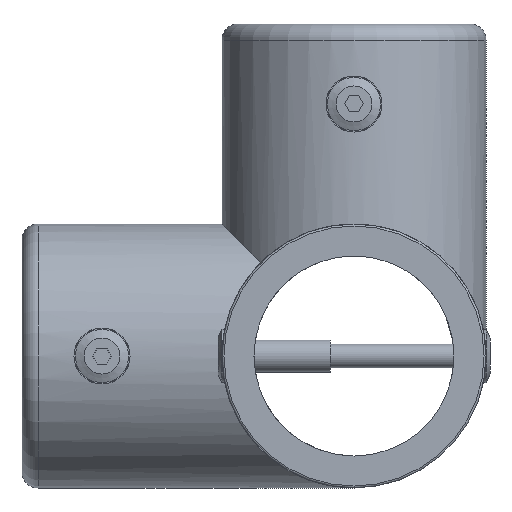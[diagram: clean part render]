
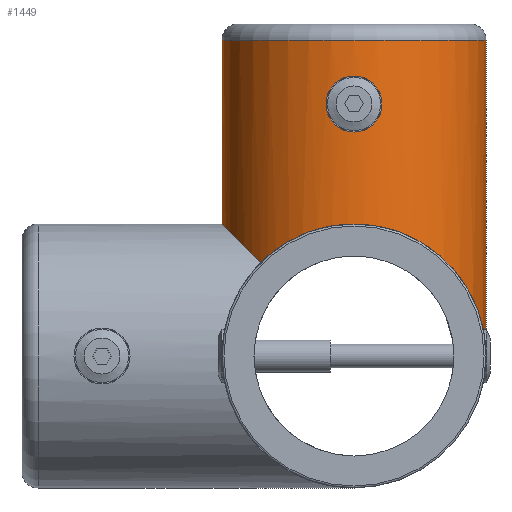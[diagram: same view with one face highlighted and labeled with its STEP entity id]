
A CAD part, left-side view. The second image highlights one B-rep face of the part: STEP entity #1449.
In plain terms, the highlighted cylindrical face has radius 33 mm (diameter 66 mm), a partial arc.
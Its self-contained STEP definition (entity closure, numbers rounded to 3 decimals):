
#110=FACE_BOUND('',#515,.T.);
#125=ELLIPSE('',#1676,46.669,33.);
#127=ELLIPSE('',#1695,46.669,33.);
#156=B_SPLINE_CURVE_WITH_KNOTS('',3,(#2817,#2818,#2819,#2820,#2821,#2822,
#2823,#2824,#2825,#2826,#2827,#2828,#2829,#2830,#2831,#2832,#2833,#2834),
 .UNSPECIFIED.,.F.,.F.,(4,2,2,2,2,2,2,2,4),(1.058,1.323,
1.587,1.852,2.116,2.381,2.645,
2.91,3.175),.UNSPECIFIED.);
#157=B_SPLINE_CURVE_WITH_KNOTS('',3,(#2835,#2836,#2837,#2838,#2839,#2840,
#2841,#2842,#2843,#2844,#2845,#2846,#2847,#2848,#2849,#2850,#2851,#2852,
#2853),.UNSPECIFIED.,.F.,.F.,(4,2,2,2,3,2,2,2,4),(3.175,3.439,
3.704,3.968,4.233,4.497,4.762,
5.026,5.291),.UNSPECIFIED.);
#197=LINE('',#2977,#286);
#203=LINE('',#3000,#292);
#286=VECTOR('',#1989,10.);
#292=VECTOR('',#2013,10.);
#363=CYLINDRICAL_SURFACE('',#1696,33.);
#416=FACE_OUTER_BOUND('',#514,.T.);
#514=EDGE_LOOP('',(#1185,#1186,#1187,#1188,#1189));
#515=EDGE_LOOP('',(#1190,#1191));
#599=CIRCLE('',#1684,33.);
#684=VERTEX_POINT('',#2815);
#685=VERTEX_POINT('',#2816);
#696=VERTEX_POINT('',#2951);
#697=VERTEX_POINT('',#2955);
#699=VERTEX_POINT('',#2962);
#702=VERTEX_POINT('',#2967);
#712=VERTEX_POINT('',#2996);
#843=EDGE_CURVE('',#684,#685,#156,.T.);
#844=EDGE_CURVE('',#685,#684,#157,.T.);
#861=EDGE_CURVE('',#696,#697,#125,.T.);
#867=EDGE_CURVE('',#702,#699,#599,.T.);
#871=EDGE_CURVE('',#696,#699,#197,.T.);
#881=EDGE_CURVE('',#712,#697,#127,.T.);
#883=EDGE_CURVE('',#702,#712,#203,.T.);
#1185=ORIENTED_EDGE('',*,*,#867,.F.);
#1186=ORIENTED_EDGE('',*,*,#883,.T.);
#1187=ORIENTED_EDGE('',*,*,#881,.T.);
#1188=ORIENTED_EDGE('',*,*,#861,.F.);
#1189=ORIENTED_EDGE('',*,*,#871,.T.);
#1190=ORIENTED_EDGE('',*,*,#843,.T.);
#1191=ORIENTED_EDGE('',*,*,#844,.T.);
#1449=ADVANCED_FACE('',(#416,#110),#363,.T.);
#1676=AXIS2_PLACEMENT_3D('',#2956,#1963,#1964);
#1684=AXIS2_PLACEMENT_3D('',#2969,#1979,#1980);
#1695=AXIS2_PLACEMENT_3D('',#2997,#2008,#2009);
#1696=AXIS2_PLACEMENT_3D('',#2999,#2011,#2012);
#1963=DIRECTION('center_axis',(-0.707,0.,-0.707));
#1964=DIRECTION('ref_axis',(0.707,0.,-0.707));
#1979=DIRECTION('center_axis',(0.,0.,1.));
#1980=DIRECTION('ref_axis',(-1.,0.,0.));
#1989=DIRECTION('',(0.,0.,1.));
#2008=DIRECTION('center_axis',(0.,-0.707,0.707));
#2009=DIRECTION('ref_axis',(0.,0.707,0.707));
#2011=DIRECTION('center_axis',(0.,0.,1.));
#2012=DIRECTION('ref_axis',(-1.,0.,0.));
#2013=DIRECTION('',(0.,0.,-1.));
#2815=CARTESIAN_POINT('',(-33.,0.,70.));
#2816=CARTESIAN_POINT('',(-33.,0.,56.));
#2817=CARTESIAN_POINT('Ctrl Pts',(-33.,0.,70.));
#2818=CARTESIAN_POINT('Ctrl Pts',(-33.,-0.882,70.));
#2819=CARTESIAN_POINT('Ctrl Pts',(-32.961,-1.821,69.823));
#2820=CARTESIAN_POINT('Ctrl Pts',(-32.82,-3.544,69.108));
#2821=CARTESIAN_POINT('Ctrl Pts',(-32.721,-4.33,68.57));
#2822=CARTESIAN_POINT('Ctrl Pts',(-32.533,-5.57,67.33));
#2823=CARTESIAN_POINT('Ctrl Pts',(-32.432,-6.108,66.544));
#2824=CARTESIAN_POINT('Ctrl Pts',(-32.289,-6.823,64.821));
#2825=CARTESIAN_POINT('Ctrl Pts',(-32.249,-7.,63.882));
#2826=CARTESIAN_POINT('Ctrl Pts',(-32.249,-7.,62.118));
#2827=CARTESIAN_POINT('Ctrl Pts',(-32.289,-6.823,61.179));
#2828=CARTESIAN_POINT('Ctrl Pts',(-32.432,-6.108,59.456));
#2829=CARTESIAN_POINT('Ctrl Pts',(-32.533,-5.57,58.67));
#2830=CARTESIAN_POINT('Ctrl Pts',(-32.721,-4.33,57.43));
#2831=CARTESIAN_POINT('Ctrl Pts',(-32.82,-3.544,56.892));
#2832=CARTESIAN_POINT('Ctrl Pts',(-32.961,-1.821,56.177));
#2833=CARTESIAN_POINT('Ctrl Pts',(-33.,-0.882,56.));
#2834=CARTESIAN_POINT('Ctrl Pts',(-33.,0.,56.));
#2835=CARTESIAN_POINT('Ctrl Pts',(-33.,0.,56.));
#2836=CARTESIAN_POINT('Ctrl Pts',(-33.,0.882,56.));
#2837=CARTESIAN_POINT('Ctrl Pts',(-32.961,1.821,56.177));
#2838=CARTESIAN_POINT('Ctrl Pts',(-32.82,3.544,56.892));
#2839=CARTESIAN_POINT('Ctrl Pts',(-32.721,4.33,57.43));
#2840=CARTESIAN_POINT('Ctrl Pts',(-32.533,5.57,58.67));
#2841=CARTESIAN_POINT('Ctrl Pts',(-32.432,6.108,59.456));
#2842=CARTESIAN_POINT('Ctrl Pts',(-32.289,6.823,61.179));
#2843=CARTESIAN_POINT('Ctrl Pts',(-32.249,7.,62.118));
#2844=CARTESIAN_POINT('Ctrl Pts',(-32.249,7.,63.));
#2845=CARTESIAN_POINT('Ctrl Pts',(-32.249,7.,63.882));
#2846=CARTESIAN_POINT('Ctrl Pts',(-32.289,6.823,64.821));
#2847=CARTESIAN_POINT('Ctrl Pts',(-32.432,6.108,66.544));
#2848=CARTESIAN_POINT('Ctrl Pts',(-32.533,5.57,67.33));
#2849=CARTESIAN_POINT('Ctrl Pts',(-32.721,4.33,68.57));
#2850=CARTESIAN_POINT('Ctrl Pts',(-32.82,3.544,69.108));
#2851=CARTESIAN_POINT('Ctrl Pts',(-32.961,1.821,69.823));
#2852=CARTESIAN_POINT('Ctrl Pts',(-33.,0.882,70.));
#2853=CARTESIAN_POINT('Ctrl Pts',(-33.,0.,70.));
#2951=CARTESIAN_POINT('',(0.,-33.,0.));
#2955=CARTESIAN_POINT('',(-23.335,23.335,23.335));
#2956=CARTESIAN_POINT('Origin',(0.,0.,0.));
#2962=CARTESIAN_POINT('',(0.,-33.,79.));
#2967=CARTESIAN_POINT('',(0.,33.,79.));
#2969=CARTESIAN_POINT('Origin',(0.,0.,79.));
#2977=CARTESIAN_POINT('',(0.,-33.,33.));
#2996=CARTESIAN_POINT('',(0.,33.,33.));
#2997=CARTESIAN_POINT('Origin',(0.,0.,0.));
#2999=CARTESIAN_POINT('Origin',(0.,0.,33.));
#3000=CARTESIAN_POINT('',(0.,33.,33.));
